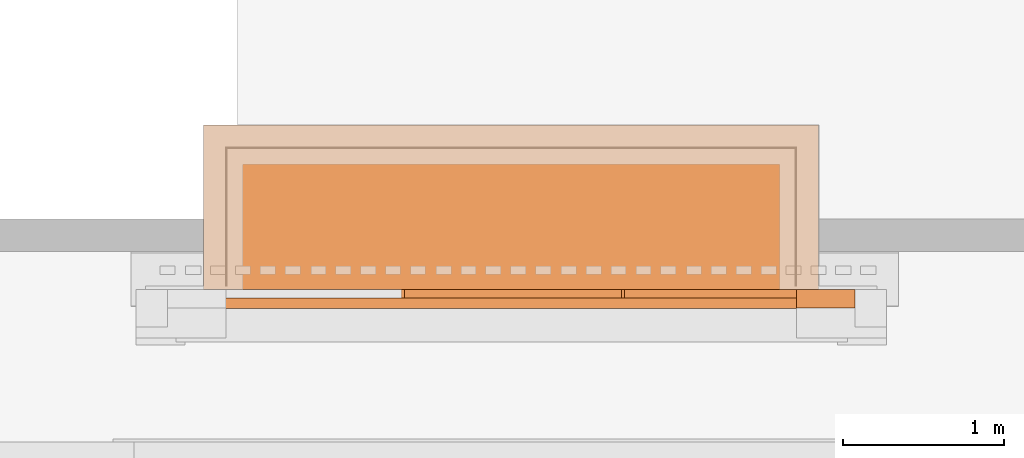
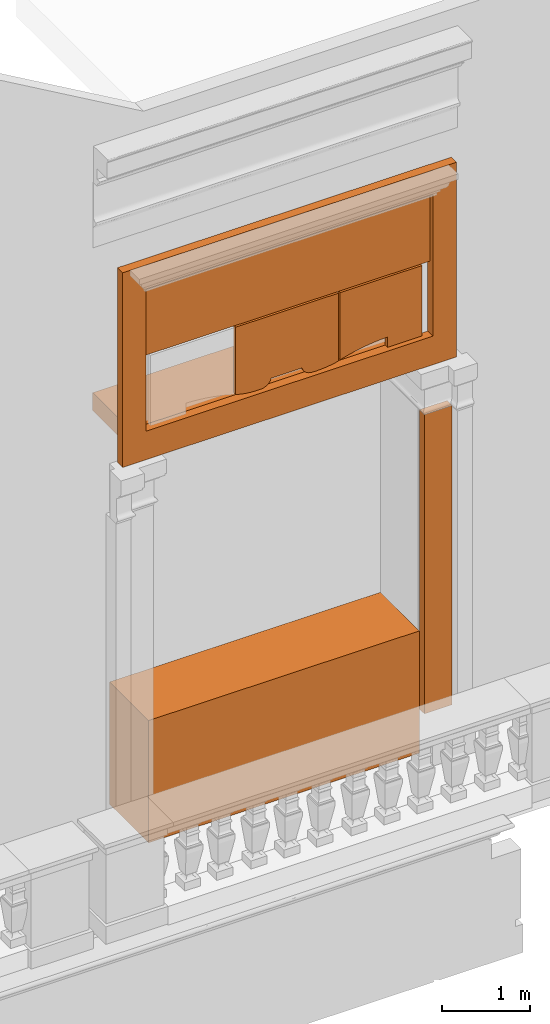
# One storey, part 11 of 14: 7 proxies.
"""IFC2X3 building model written with IfcOpenShell, lengths in metres."""

from ifc_helpers import new_model, entity, si_unit, converted_unit, derived_unit, direction, frame, frame_2d, origin, origin_2d_with_axis, place, context, subcontext, project, spatial, polyline, circle_curve, parameter, trimmed, segment, composite_curve, rectangle, outline, extrude, material, element, save


model = new_model("IFC2X3")

# Units and contexts
model_context = context("Model", 3, precision=1e-05, world=origin(), true_north=direction((6.12303176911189e-17, 1.0)))
body_context = subcontext(model_context, "Body", "Model", "MODEL_VIEW")
ifc_project = project(units=[si_unit("LENGTHUNIT", "METRE"), si_unit("AREAUNIT", "SQUARE_METRE"), si_unit("VOLUMEUNIT", "CUBIC_METRE"), converted_unit("PLANEANGLEUNIT", "DEGREE", entity("IfcRatioMeasure", 0.0174532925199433), si_unit("PLANEANGLEUNIT", "RADIAN"), dimensions=[0, 0, 0, 0, 0, 0, 0]), si_unit("MASSUNIT", "GRAM", prefix="KILO"), derived_unit("MASSDENSITYUNIT", [(si_unit("MASSUNIT", "GRAM", prefix="KILO"), 1), (si_unit("LENGTHUNIT", "METRE"), -3)]), si_unit("TIMEUNIT", "SECOND"), si_unit("FREQUENCYUNIT", "HERTZ"), si_unit("THERMODYNAMICTEMPERATUREUNIT", "DEGREE_CELSIUS"), derived_unit("THERMALTRANSMITTANCEUNIT", [(si_unit("MASSUNIT", "GRAM", prefix="KILO"), 1), (si_unit("THERMODYNAMICTEMPERATUREUNIT", "KELVIN"), -1), (si_unit("TIMEUNIT", "SECOND"), -3)]), derived_unit("VOLUMETRICFLOWRATEUNIT", [(si_unit("LENGTHUNIT", "METRE"), 3), (si_unit("TIMEUNIT", "SECOND"), -1)]), si_unit("ELECTRICCURRENTUNIT", "AMPERE"), si_unit("ELECTRICVOLTAGEUNIT", "VOLT"), si_unit("POWERUNIT", "WATT"), si_unit("FORCEUNIT", "NEWTON", prefix="KILO"), si_unit("ILLUMINANCEUNIT", "LUX"), si_unit("LUMINOUSFLUXUNIT", "LUMEN"), si_unit("LUMINOUSINTENSITYUNIT", "CANDELA"), derived_unit("USERDEFINED", [(si_unit("MASSUNIT", "GRAM", prefix="KILO"), -1), (si_unit("LENGTHUNIT", "METRE"), -2), (si_unit("TIMEUNIT", "SECOND"), 3), (si_unit("LUMINOUSFLUXUNIT", "LUMEN"), 1)]), derived_unit("LINEARVELOCITYUNIT", [(si_unit("LENGTHUNIT", "METRE"), 1), (si_unit("TIMEUNIT", "SECOND"), -1)]), si_unit("PRESSUREUNIT", "PASCAL"), derived_unit("USERDEFINED", [(si_unit("LENGTHUNIT", "METRE"), -2), (si_unit("MASSUNIT", "GRAM", prefix="KILO"), 1), (si_unit("TIMEUNIT", "SECOND"), -2)])], contexts=[model_context])

# Site, building, storey
site_placement = place(None, origin())
site = spatial("IfcSite", under=ifc_project, at=site_placement, Name="Default", CompositionType="ELEMENT")
building_placement = place(site_placement, origin())
building = spatial("IfcBuilding", under=site, at=building_placement, CompositionType="ELEMENT")
storey_placement = place(building_placement, frame((0.0, 0.0, 13.366833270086)))
storey = spatial("IfcBuildingStorey", under=building, at=storey_placement, Name="Livello 2", CompositionType="ELEMENT", Elevation=13.366833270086)

# Proxies
ifc_material_1 = material(Name="Intonaco Liscio")
proxy_1_placement = place(storey_placement, frame((5.30254665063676, 1.02553250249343, 0.0)))
element("IfcBuildingElementProxy", 1, at=proxy_1_placement, inside=storey, material=ifc_material_1, Name="Stratigrafia", context=body_context, shape_type="SweptSolid", body=[
    extrude(rectangle(XDim=1.69270076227, YDim=0.883358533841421, at=frame_2d((2.16493489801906e-15, 0.0), x_axis=(1.0, 0.0))), frame((0.0, 0.441679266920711, 0.846350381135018), z_axis=(1.0, 0.0, 0.0), x_axis=(0.0, 0.0, -1.0)), (0.0, 0.0, 1.0), 3.54630263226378),
])
ifc_material_2 = material(Name="Travertino")
proxy_2_placement = place(storey_placement, frame((4.89555753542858, 0.907882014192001, 5.41095678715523)))
element("IfcBuildingElementProxy", 2, at=proxy_2_placement, inside=storey, material=ifc_material_2, Name="Stratigrafia", context=body_context, shape_type="SweptSolid", body=[
    extrude(outline(polyline([(-2.18501190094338, -1.34735578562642), (2.18501190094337, -1.34735578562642), (2.18501190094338, 1.34735578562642), (-2.18501190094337, 1.34735578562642), (-2.18501190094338, -1.34735578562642)]), holes=[polyline([(-1.87948321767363, 0.951931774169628), (1.87658791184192, 0.95193177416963), (1.87658791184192, -1.00788053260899), (-1.87948321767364, -1.00788053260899), (-1.87948321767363, 0.951931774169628)])]), frame((2.18501190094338, 0.0, 1.34735578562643), z_axis=(0.0, 1.0, 0.0), x_axis=(1.0, 0.0, 0.0)), (0.0, 0.0, 1.0), 0.117650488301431),
])
proxy_3_placement = place(storey_placement, frame((7.77925376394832, 0.972978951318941, 5.8063784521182)))
element("IfcBuildingElementProxy", 3, at=proxy_3_placement, inside=storey, material=ifc_material_2, Name="Stratigrafia", context=body_context, shape_type="SweptSolid", body=[
    extrude(outline(composite_curve([segment(polyline([(-0.356559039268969, 0.0555432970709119), (-0.213306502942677, 0.0555432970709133)]), True, "CONTINUOUS"), segment(trimmed(circle_curve(frame_2d((-2.57132286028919, 0.107886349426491), x_axis=(0.949944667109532, -0.312418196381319)), 2.35859723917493), [parameter(1.63363065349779)], [parameter(16.9333846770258)], True, "PARAMETER"), False, "CONTINUOUS"), segment(polyline([(-0.310689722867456, -0.564808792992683), (0.618583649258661, -0.564776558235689)]), True, "CONTINUOUS"), segment(polyline([(0.618583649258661, -0.564776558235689), (0.618546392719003, 0.509266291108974)]), True, "CONTINUOUS"), segment(polyline([(0.618546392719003, 0.509266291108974), (-0.356574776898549, 0.509232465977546)]), True, "CONTINUOUS"), segment(polyline([(-0.356574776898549, 0.509232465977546), (-0.356559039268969, 0.0555432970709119)]), True, "CONTINUOUS")], self_intersect=False)), frame((0.566393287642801, 0.0, 0.356557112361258), z_axis=(0.0, 1.0, 0.0), x_axis=(-3.46881315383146e-05, 0.0, 1.0)), (0.0, 0.0, 1.0), 0.0525535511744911),
])
proxy_4_placement = place(storey_placement, frame((6.41191703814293, 0.972978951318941, 5.80593873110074)))
element("IfcBuildingElementProxy", 4, at=proxy_4_placement, inside=storey, material=ifc_material_2, Name="Stratigrafia", context=body_context, shape_type="SweptSolid", body=[
    extrude(outline(composite_curve([segment(trimmed(circle_curve(frame_2d((0.340209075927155, 0.0107204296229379), x_axis=(-0.0271777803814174, -0.999630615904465)), 0.142894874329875), [parameter(2.08158398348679e-06)], [parameter(3.1147256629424)], True, "PARAMETER"), True, "CONTINUOUS"), segment(trimmed(circle_curve(frame_2d((0.377229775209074, 0.853942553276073), x_axis=(-0.0333394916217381, -0.999444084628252)), 0.986620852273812), [parameter(359.985839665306)], [parameter(17.276824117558)], True, "PARAMETER"), True, "CONTINUOUS"), segment(trimmed(circle_curve(frame_2d((1.40373225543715, -2.32847631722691), x_axis=(-0.324370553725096, 0.945930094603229)), 2.35859723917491), [parameter(359.211650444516)], [parameter(6.10666498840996e-13)], True, "PARAMETER"), False, "CONTINUOUS"), segment(polyline([(0.669442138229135, -0.0870930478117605), (0.6577337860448, 0.844017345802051)]), True, "CONTINUOUS"), segment(polyline([(0.6577337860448, 0.844017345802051), (-0.689496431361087, 0.827076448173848)]), True, "CONTINUOUS"), segment(polyline([(-0.689496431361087, 0.827076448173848), (-0.677736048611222, -0.108171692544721)]), True, "CONTINUOUS"), segment(trimmed(circle_curve(frame_2d((-1.34210685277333, -2.37126523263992), x_axis=(0.300482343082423, 0.953787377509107)), 2.35859723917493), [parameter(360.0)], [parameter(1.12604938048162)], True, "PARAMETER"), False, "CONTINUOUS"), segment(trimmed(circle_curve(frame_2d((-0.392482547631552, 1.18713106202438), x_axis=(0.040673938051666, -0.999172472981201)), 1.33078301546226), [parameter(347.23933433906)], [parameter(1.06866637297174e-12)], True, "PARAMETER"), True, "CONTINUOUS"), segment(trimmed(circle_curve(frame_2d((-0.337126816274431, 0.000338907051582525), x_axis=(0.0523051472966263, -0.998631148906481)), 0.142894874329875), [parameter(356.509559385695)], [parameter(359.999999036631)], True, "PARAMETER"), True, "CONTINUOUS"), segment(trimmed(circle_curve(frame_2d((-0.337126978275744, 0.000340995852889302), x_axis=(0.257931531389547, -0.966163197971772)), 0.142896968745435), [parameter(348.050890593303)], [parameter(8.20018190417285e-07)], True, "PARAMETER"), True, "CONTINUOUS"), segment(trimmed(circle_curve(frame_2d((-0.337128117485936, 0.000344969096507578), x_axis=(0.556452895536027, -0.830879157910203)), 0.142901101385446), [parameter(341.136548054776)], [parameter(1.74876305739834e-06)], True, "PARAMETER"), True, "CONTINUOUS"), segment(trimmed(circle_curve(frame_2d((-0.337130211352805, 0.000348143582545), x_axis=(0.832499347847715, -0.554026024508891)), 0.142904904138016), [parameter(337.454492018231)], [parameter(359.999999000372)], True, "PARAMETER"), True, "CONTINUOUS"), segment(trimmed(circle_curve(frame_2d((-0.337130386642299, 0.000348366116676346), x_axis=(0.97083976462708, -0.239729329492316)), 0.142905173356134), [parameter(340.226873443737)], [parameter(0.0)], True, "PARAMETER"), True, "CONTINUOUS"), segment(polyline([(-0.198392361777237, -0.0339101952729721), (0.202986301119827, -0.0291559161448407)]), True, "CONTINUOUS"), segment(trimmed(circle_curve(frame_2d((0.340212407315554, 0.0107299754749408), x_axis=(-0.960259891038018, -0.279107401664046)), 0.142905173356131), [parameter(5.08888749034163e-14)], [parameter(18.8776201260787)], True, "PARAMETER"), True, "CONTINUOUS"), segment(trimmed(circle_curve(frame_2d((0.340212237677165, 0.0107297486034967), x_axis=(-0.818304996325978, -0.574784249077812)), 0.142904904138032), [parameter(359.999999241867)], [parameter(22.5455130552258)], True, "PARAMETER"), True, "CONTINUOUS"), segment(trimmed(circle_curve(frame_2d((0.340210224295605, 0.0107265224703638), x_axis=(-0.535384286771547, -0.844608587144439)), 0.142901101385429), [parameter(3.3248289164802e-06)], [parameter(18.863452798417)], True, "PARAMETER"), True, "CONTINUOUS"), segment(trimmed(circle_curve(frame_2d((0.340209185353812, 0.0107225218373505), x_axis=(-0.233555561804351, -0.972343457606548)), 0.142896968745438), [parameter(3.32004108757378e-08)], [parameter(11.949110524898)], True, "PARAMETER"), True, "CONTINUOUS")], self_intersect=False)), frame((0.669889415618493, 0.0, 0.139880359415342), z_axis=(0.0, 1.0, 0.0), x_axis=(-0.999920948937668, 0.0, -0.0125736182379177)), (0.0, 0.0, 1.0), 0.0525535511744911),
])
proxy_5_placement = place(storey_placement, frame((5.19718067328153, 0.972978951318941, 6.80649962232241)))
element("IfcBuildingElementProxy", 5, at=proxy_5_placement, inside=storey, material=ifc_material_2, Name="Stratigrafia", context=body_context, shape_type="SweptSolid", body=[
    extrude(rectangle(XDim=0.955, YDim=0.0525535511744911, at=origin_2d_with_axis()), frame((0.0, 0.0262767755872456, 0.4775), z_axis=(1.0, 0.0, 0.0), x_axis=(0.0, 0.0, -1.0)), (0.0, 0.0, 1.0), 3.76),
])
proxy_6_placement = place(storey_placement, frame((5.16227631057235, 1.02553250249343, 5.41095678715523)))
element("IfcBuildingElementProxy", 6, at=proxy_6_placement, inside=storey, Name="Stratigrafia", context=body_context, shape_type="SweptSolid", body=[
    extrude(rectangle(XDim=0.249999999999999, YDim=1.02362887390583, at=frame_2d((0.0, 0.0), x_axis=(0.0, 1.0))), frame((0.0, 0.511814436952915, 0.125000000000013), z_axis=(1.0, 0.0, 0.0), x_axis=(0.0, -1.0, 0.0)), (0.0, 0.0, 1.0), 3.82535572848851),
])
proxy_7_placement = place(storey_placement, frame((8.84884928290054, 0.912024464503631, 0.612700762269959)))
element("IfcBuildingElementProxy", 7, at=proxy_7_placement, inside=storey, material=ifc_material_2, Name="Stratigrafia", context=body_context, shape_type="SweptSolid", body=[
    extrude(rectangle(XDim=4.14295671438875, YDim=0.113508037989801, at=frame_2d((0.0, 6.93889390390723e-17), x_axis=(1.0, 0.0))), frame((0.0, 0.0567540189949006, 2.07147835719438), z_axis=(1.0, 0.0, 0.0), x_axis=(0.0, 0.0, -1.0)), (0.0, 0.0, 1.0), 0.363133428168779),
])

save(model, "model.ifc")
